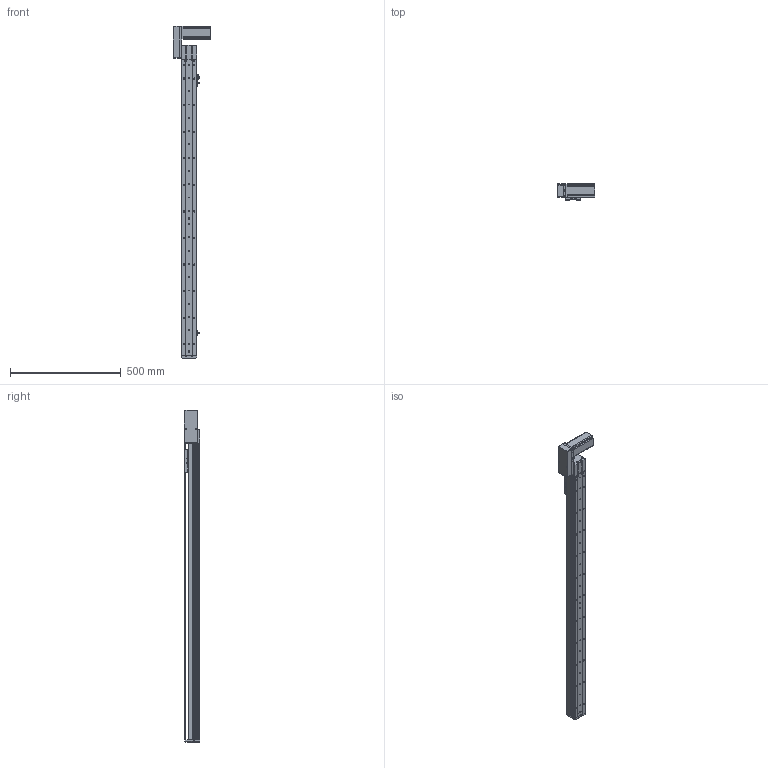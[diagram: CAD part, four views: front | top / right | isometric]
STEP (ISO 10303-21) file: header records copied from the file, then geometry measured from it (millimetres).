
FILE_DESCRIPTION (( 'STEP AP214' ), '1' );
FILE_NAME ('KSD68BS-S1150-MRB-CM.STEP', '2019-11-06T07:55:34', ( '微软用户' ), ( '微软中国' ), 'SwSTEP 2.0', 'SolidWorks 2014', '' );
FILE_SCHEMA (( 'AUTOMOTIVE_DESIGN' ));
Length unit declared in the file: millimetre
Products named in the file (11): 悵誘欶奻狟殏; 68宽马达安装板连板上折同步带; 68宽单导轨半封闭同步带主动轮座右; 68单导轨同步带半封闭端板; KSD68BS 1150俴最裔啣圉猾敕; 覜茼え68遵圉猾敕; KSD68BS半封闭同步带传动导轨座; U倰嫖萇EEㄜSX672; 台达ECMA－C20604AS伺服电机（400W); KSD68BS 1150俴最菁啣圉猾敕; KSD68BS-S1150-MRB-CM
Assembly tree (12 placements, depth 2):
  KSD68BS-S1150-MRB-CM
    KSD68BS 1150俴最菁啣圉猾敕
    台达ECMA－C20604AS伺服电机（400W)
    U倰嫖萇EEㄜSX672  x3
    KSD68BS半封闭同步带传动导轨座
    覜茼え68遵圉猾敕
    KSD68BS 1150俴最裔啣圉猾敕
    68单导轨同步带半封闭端板
    68宽单导轨半封闭同步带主动轮座右
    68宽马达安装板连板上折同步带
    悵誘欶奻狟殏
Bounding box: 167.2 x 70.5 x 1499.5 mm (x, y, z)
Volume: 2559387.4 mm3; surface area: 917847.5 mm2
Topology: 13 solids, 13 shells, 1472 faces, 4268 edges, 2778 vertices
Faces by surface type: cylinder 754, plane 635, cone 83
Entity records: 55713 total; most frequent: CARTESIAN_POINT 10918, ORIENTED_EDGE 7288, DIRECTION 7126, EDGE_CURVE 3644, AXIS2_PLACEMENT_3D 2562, VERTEX_POINT 2402, VECTOR 2002, LINE 2002
